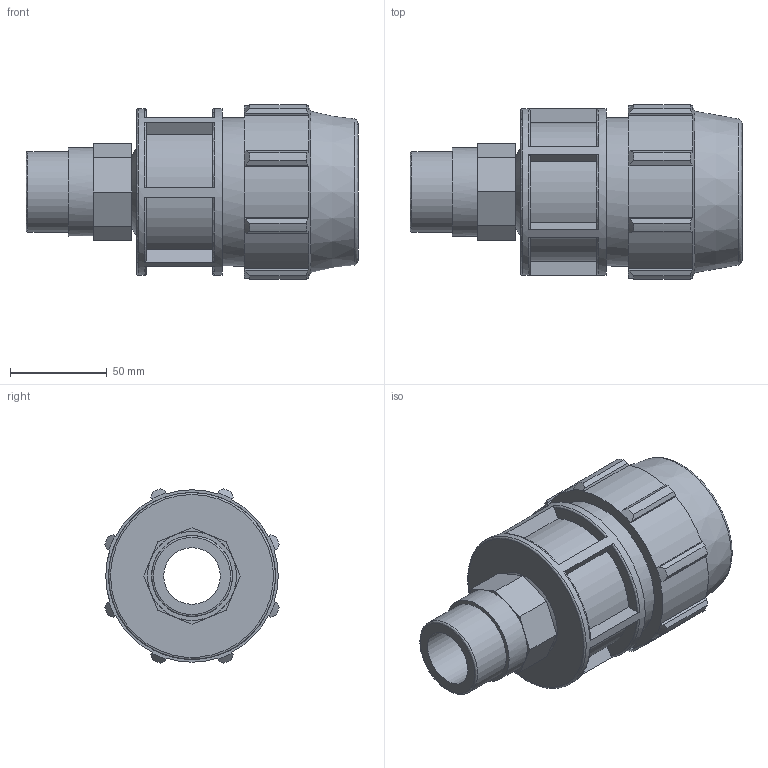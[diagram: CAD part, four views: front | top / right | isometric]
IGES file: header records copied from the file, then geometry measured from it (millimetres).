
Global section: file name: 077200050013_187200050013_0772060500130A.ipt; native system: Autodesk Inventor 2015; preprocessor: unknown; author: KIM; date: 20170606.174300; units: millimetre
Bounding box: 172 x 90.33 x 90.33 mm (x, y, z)
Volume: 428713.4 mm3; surface area: 81429.3 mm2
Topology: 1 solids, 1 shells, 137 faces, 367 edges, 244 vertices
Faces by surface type: plane 81, cylinder 26, revolution 19, cone 11
Full cylindrical faces by diameter (mm): 41.91 x1, 46.101 x1, 76.8 x1, 86.4 x1
